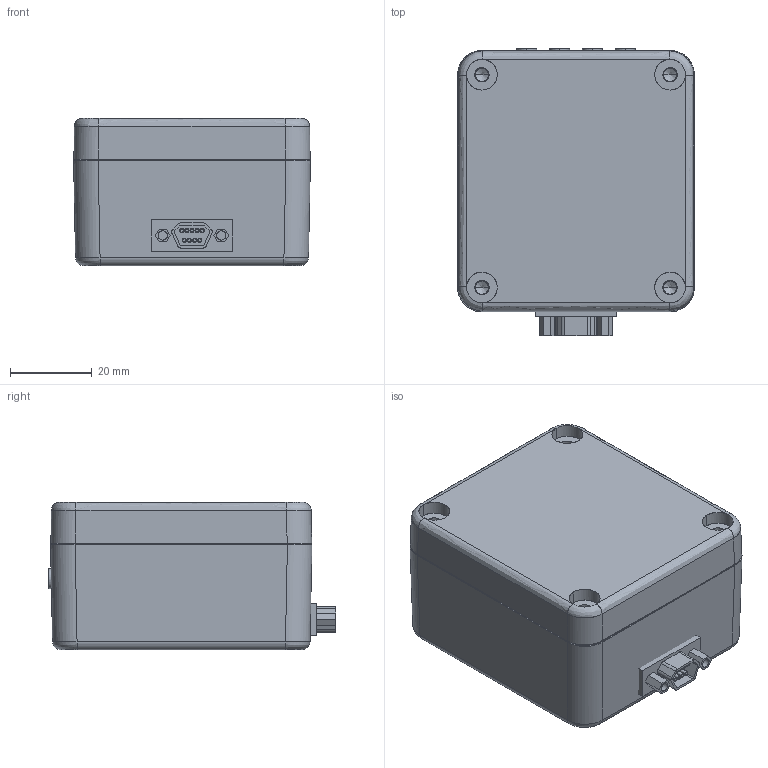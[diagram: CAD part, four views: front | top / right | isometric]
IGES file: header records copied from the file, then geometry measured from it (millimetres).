
Start section: SolidWorks IGES file using analytic representation for surfaces
Global section: file name: C:\Documents and Settings\Administrator\My Documents\EDI\3D\KD5200\KD5200.IGS; native system: SolidWorks 2008; preprocessor: SolidWorks 2008; author: Administrator; date: 100305.130106; units: millimetre
Bounding box: 57.89 x 70.25 x 36 mm (x, y, z)
Surface area: 34032.3 mm2 (no closed solid volume)
Topology: 0 solids, 0 shells, 561 faces, 7208 edges, 7188 vertices
Faces by surface type: bspline 281, revolution 280
